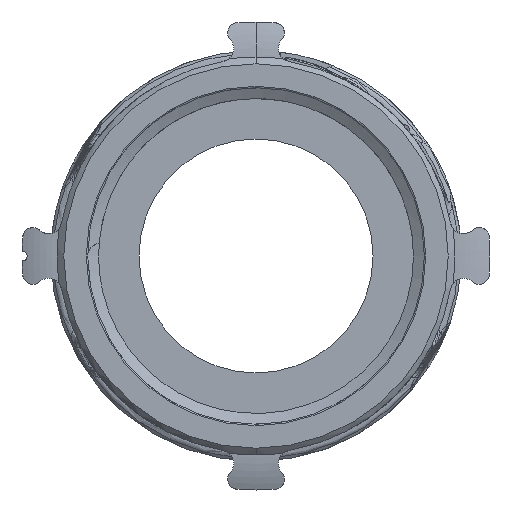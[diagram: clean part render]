
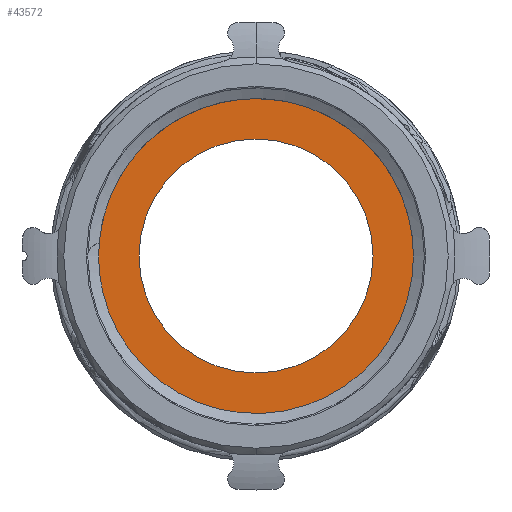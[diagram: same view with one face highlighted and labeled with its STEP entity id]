
A CAD part, left-side view. The second image highlights one B-rep face of the part: STEP entity #43572.
In plain terms, the highlighted planar face has unit normal (-1, 0, 0).
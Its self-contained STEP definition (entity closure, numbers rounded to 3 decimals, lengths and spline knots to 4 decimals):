
#1845 = ORIENTED_EDGE ( 'NONE', *, *, #5150, .F. ) ;
#2774 = VERTEX_POINT ( 'NONE', #36152 ) ;
#3075 = FACE_OUTER_BOUND ( 'NONE', #44192, .T. ) ;
#4646 = AXIS2_PLACEMENT_3D ( 'NONE', #10042, #14133, #32416 ) ;
#5150 = EDGE_CURVE ( 'NONE', #2774, #8976, #12345, .T. ) ;
#7567 = ORIENTED_EDGE ( 'NONE', *, *, #27748, .F. ) ;
#8976 = VERTEX_POINT ( 'NONE', #42788 ) ;
#10042 = CARTESIAN_POINT ( 'NONE',  ( -1.8475, 2.5625, 0. ) ) ;
#10448 = EDGE_CURVE ( 'NONE', #39427, #36937, #17059, .T. ) ;
#10763 = EDGE_LOOP ( 'NONE', ( #27651, #21609 ) ) ;
#12345 = CIRCLE ( 'NONE', #23084, 2.5625 ) ;
#12679 = DIRECTION ( 'NONE',  ( 0., 1., 0. ) ) ;
#14133 = DIRECTION ( 'NONE',  ( 1., 0., 0. ) ) ;
#16213 = CARTESIAN_POINT ( 'NONE',  ( -1.8475, 0., 0. ) ) ;
#16997 = CIRCLE ( 'NONE', #43877, 2.5625 ) ;
#17059 = CIRCLE ( 'NONE', #34722, 1.75 ) ;
#17715 = PLANE ( 'NONE',  #4646 ) ;
#19466 = DIRECTION ( 'NONE',  ( 0., 1., 0. ) ) ;
#19783 = EDGE_CURVE ( 'NONE', #36937, #39427, #41839, .T. ) ;
#20463 = DIRECTION ( 'NONE',  ( 0., 1., 0. ) ) ;
#21590 = CARTESIAN_POINT ( 'NONE',  ( -1.8475, 0., 0. ) ) ;
#21609 = ORIENTED_EDGE ( 'NONE', *, *, #19783, .T. ) ;
#22707 = DIRECTION ( 'NONE',  ( 1., 0., 0. ) ) ;
#23067 = DIRECTION ( 'NONE',  ( 1., 0., 0. ) ) ;
#23084 = AXIS2_PLACEMENT_3D ( 'NONE', #41371, #23067, #19466 ) ;
#27651 = ORIENTED_EDGE ( 'NONE', *, *, #10448, .T. ) ;
#27748 = EDGE_CURVE ( 'NONE', #8976, #2774, #16997, .T. ) ;
#31536 = CARTESIAN_POINT ( 'NONE',  ( -1.8475, 0., 0. ) ) ;
#32416 = DIRECTION ( 'NONE',  ( 0., 1., 0. ) ) ;
#34571 = DIRECTION ( 'NONE',  ( 1., 0., 0. ) ) ;
#34722 = AXIS2_PLACEMENT_3D ( 'NONE', #31536, #22707, #20463 ) ;
#35227 = DIRECTION ( 'NONE',  ( 0., 1., 0. ) ) ;
#36152 = CARTESIAN_POINT ( 'NONE',  ( -1.8475, 2.5625, 0. ) ) ;
#36736 = CARTESIAN_POINT ( 'NONE',  ( -1.8475, 0., 1.75 ) ) ;
#36937 = VERTEX_POINT ( 'NONE', #46646 ) ;
#38604 = DIRECTION ( 'NONE',  ( 1., 0., 0. ) ) ;
#39427 = VERTEX_POINT ( 'NONE', #36736 ) ;
#41371 = CARTESIAN_POINT ( 'NONE',  ( -1.8475, 0., 0. ) ) ;
#41839 = CIRCLE ( 'NONE', #42589, 1.75 ) ;
#42589 = AXIS2_PLACEMENT_3D ( 'NONE', #16213, #38604, #35227 ) ;
#42788 = CARTESIAN_POINT ( 'NONE',  ( -1.8475, -2.5625, 0. ) ) ;
#43572 = ADVANCED_FACE ( 'NONE', ( #47318, #3075 ), #17715, .F. ) ;
#43877 = AXIS2_PLACEMENT_3D ( 'NONE', #21590, #34571, #12679 ) ;
#44192 = EDGE_LOOP ( 'NONE', ( #1845, #7567 ) ) ;
#46646 = CARTESIAN_POINT ( 'NONE',  ( -1.8475, 0., -1.75 ) ) ;
#47318 = FACE_BOUND ( 'NONE', #10763, .T. ) ;
